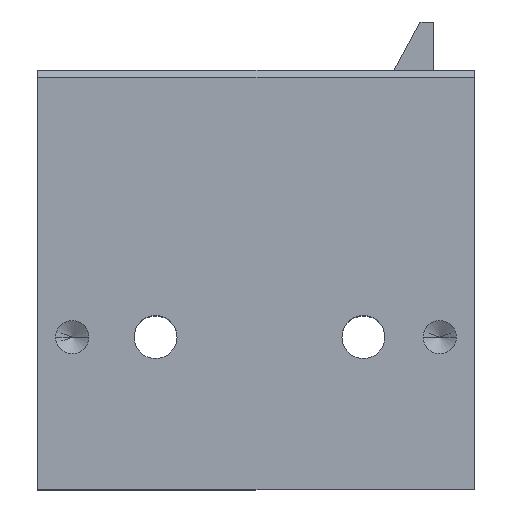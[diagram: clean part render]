
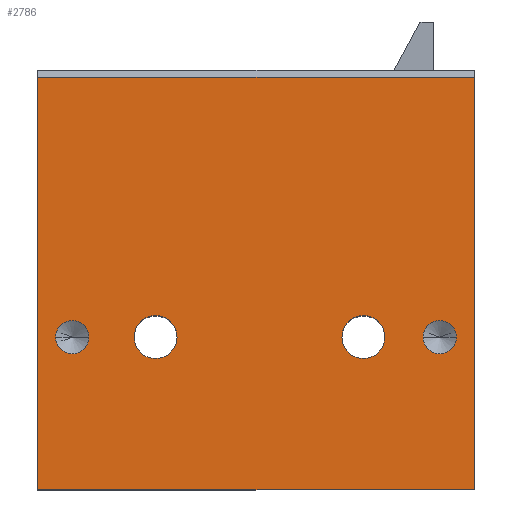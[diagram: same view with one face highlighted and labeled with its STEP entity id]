
A CAD part, top view. The second image highlights one B-rep face of the part: STEP entity #2786.
In plain terms, the highlighted planar face has unit normal (0, 0, 1).
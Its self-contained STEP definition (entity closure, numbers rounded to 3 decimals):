
#8 = EDGE_CURVE ( 'NONE', #570, #2069, #2797, .T. ) ;
#58 = EDGE_CURVE ( 'NONE', #2023, #3327, #3317, .T. ) ;
#107 = EDGE_CURVE ( 'NONE', #2069, #570, #329, .T. ) ;
#134 = AXIS2_PLACEMENT_3D ( 'NONE', #2193, #2949, #694 ) ;
#144 = EDGE_LOOP ( 'NONE', ( #4154, #1959, #2156, #2920 ) ) ;
#147 = DIRECTION ( 'NONE',  ( 0., 1., 0. ) ) ;
#161 = VERTEX_POINT ( 'NONE', #1866 ) ;
#329 = CIRCLE ( 'NONE', #1896, 2.4 ) ;
#361 = VERTEX_POINT ( 'NONE', #1246 ) ;
#389 = CARTESIAN_POINT ( 'NONE',  ( -63., 0., 35. ) ) ;
#439 = CARTESIAN_POINT ( 'NONE',  ( -63., 59.5, 35. ) ) ;
#449 = CARTESIAN_POINT ( 'NONE',  ( -7.4, 22., 35. ) ) ;
#557 = EDGE_CURVE ( 'NONE', #1108, #3034, #595, .T. ) ;
#570 = VERTEX_POINT ( 'NONE', #449 ) ;
#595 = LINE ( 'NONE', #1441, #1400 ) ;
#663 = FACE_BOUND ( 'NONE', #1600, .T. ) ;
#679 = EDGE_LOOP ( 'NONE', ( #3134, #1922 ) ) ;
#694 = DIRECTION ( 'NONE',  ( 1., 0., 0. ) ) ;
#737 = AXIS2_PLACEMENT_3D ( 'NONE', #3981, #1346, #3360 ) ;
#761 = CARTESIAN_POINT ( 'NONE',  ( -42.9, 22., 35. ) ) ;
#915 = CARTESIAN_POINT ( 'NONE',  ( -58., 22., 35. ) ) ;
#946 = LINE ( 'NONE', #1773, #1831 ) ;
#963 = DIRECTION ( 'NONE',  ( -1., 0., 0. ) ) ;
#971 = ORIENTED_EDGE ( 'NONE', *, *, #2031, .F. ) ;
#993 = CARTESIAN_POINT ( 'NONE',  ( 0., 60.5, 35. ) ) ;
#1054 = EDGE_CURVE ( 'NONE', #2609, #1108, #946, .T. ) ;
#1108 = VERTEX_POINT ( 'NONE', #2307 ) ;
#1246 = CARTESIAN_POINT ( 'NONE',  ( -60.4, 22., 35. ) ) ;
#1346 = DIRECTION ( 'NONE',  ( 0., 0., 1. ) ) ;
#1400 = VECTOR ( 'NONE', #147, 1000. ) ;
#1414 = AXIS2_PLACEMENT_3D ( 'NONE', #993, #2678, #1568 ) ;
#1427 = FACE_BOUND ( 'NONE', #679, .T. ) ;
#1441 = CARTESIAN_POINT ( 'NONE',  ( 0., 0., 35. ) ) ;
#1461 = CARTESIAN_POINT ( 'NONE',  ( -5., 22., 35. ) ) ;
#1480 = ORIENTED_EDGE ( 'NONE', *, *, #8, .F. ) ;
#1482 = EDGE_CURVE ( 'NONE', #161, #2609, #1505, .T. ) ;
#1505 = LINE ( 'NONE', #2284, #4064 ) ;
#1568 = DIRECTION ( 'NONE',  ( 1., 0., 0. ) ) ;
#1581 = DIRECTION ( 'NONE',  ( 1., 0., 0. ) ) ;
#1585 = DIRECTION ( 'NONE',  ( 0., 0., 1. ) ) ;
#1600 = EDGE_LOOP ( 'NONE', ( #971, #3172 ) ) ;
#1606 = DIRECTION ( 'NONE',  ( 1., 0., 0. ) ) ;
#1638 = DIRECTION ( 'NONE',  ( 1., 0., 0. ) ) ;
#1666 = DIRECTION ( 'NONE',  ( 0., 0., 1. ) ) ;
#1767 = CARTESIAN_POINT ( 'NONE',  ( -16., 22., 35. ) ) ;
#1773 = CARTESIAN_POINT ( 'NONE',  ( 0., 0., 35. ) ) ;
#1794 = AXIS2_PLACEMENT_3D ( 'NONE', #2335, #1666, #3292 ) ;
#1831 = VECTOR ( 'NONE', #3822, 1000. ) ;
#1866 = CARTESIAN_POINT ( 'NONE',  ( -63., 59.5, 35. ) ) ;
#1881 = AXIS2_PLACEMENT_3D ( 'NONE', #1767, #1585, #1933 ) ;
#1896 = AXIS2_PLACEMENT_3D ( 'NONE', #1461, #2969, #1638 ) ;
#1922 = ORIENTED_EDGE ( 'NONE', *, *, #58, .F. ) ;
#1925 = DIRECTION ( 'NONE',  ( 0., 0., 1. ) ) ;
#1933 = DIRECTION ( 'NONE',  ( 1., 0., 0. ) ) ;
#1959 = ORIENTED_EDGE ( 'NONE', *, *, #2131, .T. ) ;
#2015 = VERTEX_POINT ( 'NONE', #3775 ) ;
#2023 = VERTEX_POINT ( 'NONE', #2250 ) ;
#2031 = EDGE_CURVE ( 'NONE', #2595, #361, #2033, .T. ) ;
#2033 = CIRCLE ( 'NONE', #3275, 2.4 ) ;
#2040 = CARTESIAN_POINT ( 'NONE',  ( -55.6, 22., 35. ) ) ;
#2069 = VERTEX_POINT ( 'NONE', #3594 ) ;
#2080 = CIRCLE ( 'NONE', #134, 3.1 ) ;
#2105 = EDGE_CURVE ( 'NONE', #3327, #2023, #2389, .T. ) ;
#2131 = EDGE_CURVE ( 'NONE', #3034, #161, #3006, .T. ) ;
#2156 = ORIENTED_EDGE ( 'NONE', *, *, #1482, .T. ) ;
#2193 = CARTESIAN_POINT ( 'NONE',  ( -46., 22., 35. ) ) ;
#2201 = DIRECTION ( 'NONE',  ( 0., -1., 0. ) ) ;
#2216 = EDGE_CURVE ( 'NONE', #2322, #2015, #2383, .T. ) ;
#2234 = EDGE_CURVE ( 'NONE', #361, #2595, #3575, .T. ) ;
#2250 = CARTESIAN_POINT ( 'NONE',  ( -19.1, 22., 35. ) ) ;
#2284 = CARTESIAN_POINT ( 'NONE',  ( -63., 0., 35. ) ) ;
#2307 = CARTESIAN_POINT ( 'NONE',  ( 0., 0., 35. ) ) ;
#2308 = PLANE ( 'NONE',  #1414 ) ;
#2320 = FACE_BOUND ( 'NONE', #3137, .T. ) ;
#2322 = VERTEX_POINT ( 'NONE', #761 ) ;
#2335 = CARTESIAN_POINT ( 'NONE',  ( -16., 22., 35. ) ) ;
#2383 = CIRCLE ( 'NONE', #3595, 3.1 ) ;
#2389 = CIRCLE ( 'NONE', #1881, 3.1 ) ;
#2437 = ORIENTED_EDGE ( 'NONE', *, *, #3694, .F. ) ;
#2595 = VERTEX_POINT ( 'NONE', #2040 ) ;
#2609 = VERTEX_POINT ( 'NONE', #389 ) ;
#2615 = DIRECTION ( 'NONE',  ( 0., 0., 1. ) ) ;
#2678 = DIRECTION ( 'NONE',  ( 0., 0., 1. ) ) ;
#2691 = CARTESIAN_POINT ( 'NONE',  ( -5., 22., 35. ) ) ;
#2786 = ADVANCED_FACE ( 'NONE', ( #3195, #663, #1427, #2320, #4089 ), #2308, .T. ) ;
#2797 = CIRCLE ( 'NONE', #3879, 2.4 ) ;
#2850 = EDGE_LOOP ( 'NONE', ( #3326, #1480 ) ) ;
#2920 = ORIENTED_EDGE ( 'NONE', *, *, #1054, .T. ) ;
#2949 = DIRECTION ( 'NONE',  ( 0., 0., 1. ) ) ;
#2969 = DIRECTION ( 'NONE',  ( 0., 0., 1. ) ) ;
#3006 = LINE ( 'NONE', #439, #3249 ) ;
#3034 = VERTEX_POINT ( 'NONE', #3865 ) ;
#3134 = ORIENTED_EDGE ( 'NONE', *, *, #2105, .F. ) ;
#3137 = EDGE_LOOP ( 'NONE', ( #3241, #2437 ) ) ;
#3172 = ORIENTED_EDGE ( 'NONE', *, *, #2234, .F. ) ;
#3195 = FACE_BOUND ( 'NONE', #2850, .T. ) ;
#3241 = ORIENTED_EDGE ( 'NONE', *, *, #2216, .F. ) ;
#3249 = VECTOR ( 'NONE', #963, 1000. ) ;
#3275 = AXIS2_PLACEMENT_3D ( 'NONE', #915, #1925, #1581 ) ;
#3292 = DIRECTION ( 'NONE',  ( 1., 0., 0. ) ) ;
#3317 = CIRCLE ( 'NONE', #1794, 3.1 ) ;
#3326 = ORIENTED_EDGE ( 'NONE', *, *, #107, .F. ) ;
#3327 = VERTEX_POINT ( 'NONE', #4070 ) ;
#3355 = DIRECTION ( 'NONE',  ( 1., 0., 0. ) ) ;
#3360 = DIRECTION ( 'NONE',  ( 1., 0., 0. ) ) ;
#3575 = CIRCLE ( 'NONE', #737, 2.4 ) ;
#3594 = CARTESIAN_POINT ( 'NONE',  ( -2.6, 22., 35. ) ) ;
#3595 = AXIS2_PLACEMENT_3D ( 'NONE', #3715, #2615, #1606 ) ;
#3660 = DIRECTION ( 'NONE',  ( 0., 0., 1. ) ) ;
#3694 = EDGE_CURVE ( 'NONE', #2015, #2322, #2080, .T. ) ;
#3715 = CARTESIAN_POINT ( 'NONE',  ( -46., 22., 35. ) ) ;
#3775 = CARTESIAN_POINT ( 'NONE',  ( -49.1, 22., 35. ) ) ;
#3822 = DIRECTION ( 'NONE',  ( 1., 0., 0. ) ) ;
#3865 = CARTESIAN_POINT ( 'NONE',  ( 0., 59.5, 35. ) ) ;
#3879 = AXIS2_PLACEMENT_3D ( 'NONE', #2691, #3660, #3355 ) ;
#3981 = CARTESIAN_POINT ( 'NONE',  ( -58., 22., 35. ) ) ;
#4064 = VECTOR ( 'NONE', #2201, 1000. ) ;
#4070 = CARTESIAN_POINT ( 'NONE',  ( -12.9, 22., 35. ) ) ;
#4089 = FACE_OUTER_BOUND ( 'NONE', #144, .T. ) ;
#4154 = ORIENTED_EDGE ( 'NONE', *, *, #557, .T. ) ;
